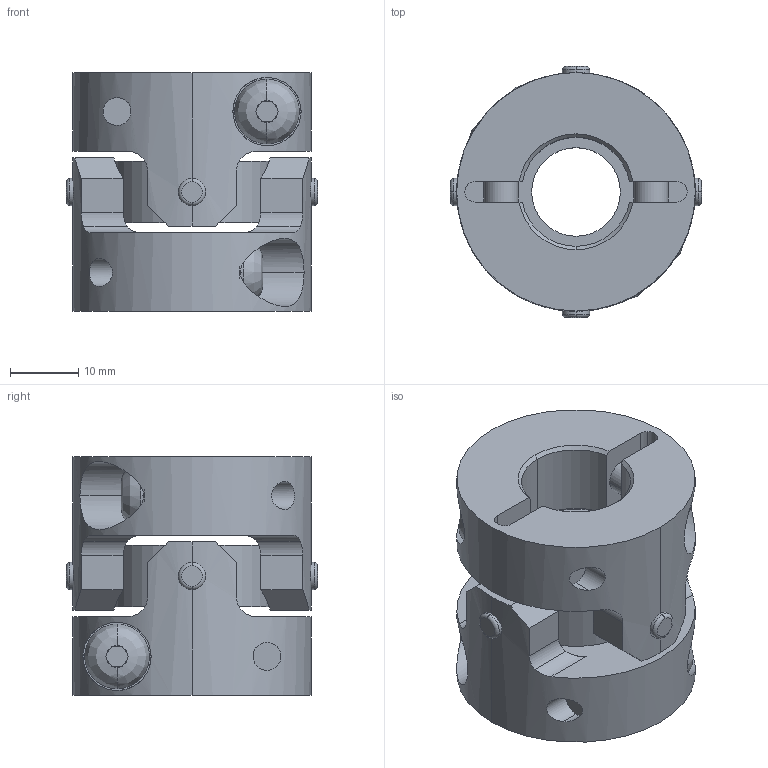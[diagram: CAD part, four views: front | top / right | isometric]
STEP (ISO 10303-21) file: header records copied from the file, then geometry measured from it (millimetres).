
FILE_DESCRIPTION((''),'2;1');
FILE_NAME('UA-35C-14×16.stp','2013-05-22T07:58:50',(''),(''),'AutoCAD STEP 2000i','AutoCAD 2000i',', , ');
FILE_SCHEMA(('CONFIG_CONTROL_DESIGN'));
Length unit declared in the file: millimetre
Products named in the file (8): UA-35C-14×14; 忣兜1; UA-3502-D14-1; BTN-M5; UA-3502-D14; UA-3502-D08-1; UA-3502-D08; UA35-SEN
Assembly tree (10 placements, depth 3):
  UA-35C-14×14
    忣兜1
    UA-3502-D14-1
      BTN-M5
    UA-3502-D14
      BTN-M5
    UA-3502-D08-1
      BTN-M5
    UA-3502-D08
      BTN-M5
    UA35-SEN
Bounding box: 36.83 x 36.83 x 35 mm (x, y, z)
Volume: 21456.6 mm3; surface area: 11431.9 mm2
Topology: 1 solids, 1 shells, 250 faces, 646 edges, 408 vertices
Faces by surface type: plane 122, cylinder 96, cone 16, bspline 8, torus 8
Entity records: 9675 total; most frequent: CARTESIAN_POINT 3379, DIRECTION 1296, ORIENTED_EDGE 1292, EDGE_CURVE 646, AXIS2_PLACEMENT_3D 501, VERTEX_POINT 408, VECTOR 294, LINE 294
